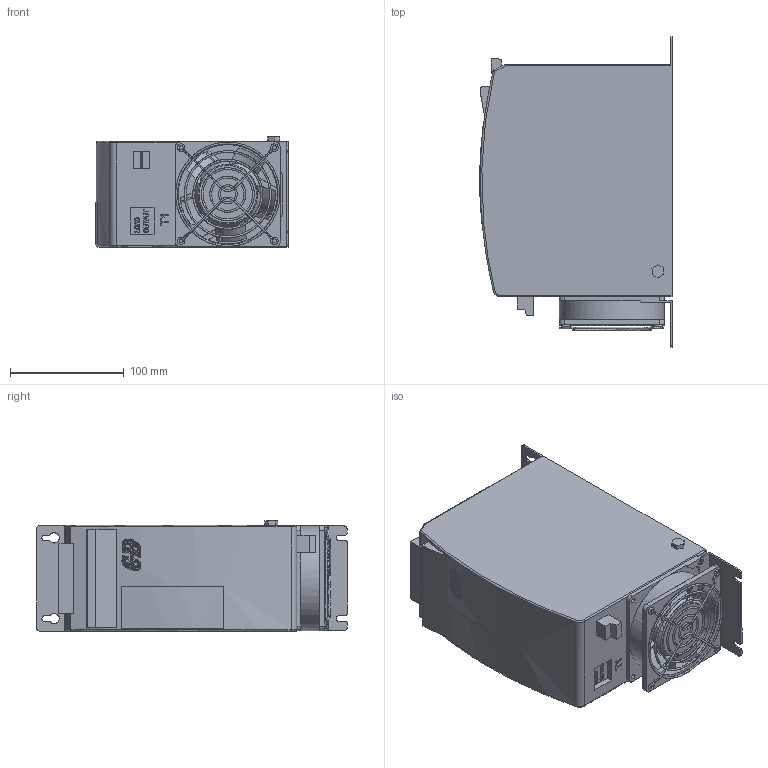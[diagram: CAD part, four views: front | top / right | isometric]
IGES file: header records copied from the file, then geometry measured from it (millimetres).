
Global section: file name: SR15 90A-210A 1PH; native system: AutoCAD 2015 - Italiano (Italian); preprocessor: Autodesk Translation Framework DWG producer (atf_dwg_producer); organization: unknown; date: 20180117.122228; units: millimetre
Bounding box: 169.37 x 273 x 97 mm (x, y, z)
Volume: 3252126.2 mm3; surface area: 187721.3 mm2
Topology: 9 solids, 9 shells, 1320 faces, 3685 edges, 2442 vertices
Faces by surface type: bspline 1320
